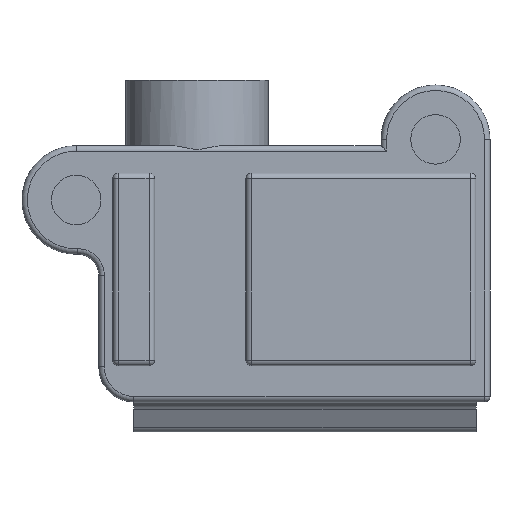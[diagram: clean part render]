
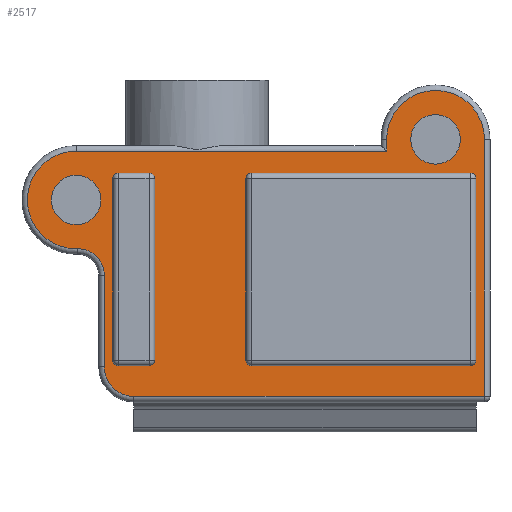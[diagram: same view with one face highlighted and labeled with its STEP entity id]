
A CAD part, front view. The second image highlights one B-rep face of the part: STEP entity #2517.
In plain terms, the highlighted planar face has unit normal (0, -1, 0).
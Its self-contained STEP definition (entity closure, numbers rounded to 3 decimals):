
#237=DIRECTION('',(-1.,0.,0.));
#238=VECTOR('',#237,11.28);
#239=CARTESIAN_POINT('',(6.89,-2.6,-2.575));
#240=LINE('',#239,#238);
#483=CARTESIAN_POINT('',(1.98,-2.6,-3.575));
#484=DIRECTION('',(0.,1.,0.));
#485=DIRECTION('',(-1.,0.,0.));
#486=AXIS2_PLACEMENT_3D('',#483,#484,#485);
#515=CARTESIAN_POINT('',(1.98,-2.6,-10.175));
#516=DIRECTION('',(0.,1.,0.));
#517=DIRECTION('',(0.,0.,-1.));
#518=AXIS2_PLACEMENT_3D('',#515,#516,#517);
#583=CARTESIAN_POINT('',(9.94,-2.6,-10.175));
#584=DIRECTION('',(0.,1.,0.));
#585=DIRECTION('',(1.,0.,0.));
#586=AXIS2_PLACEMENT_3D('',#583,#584,#585);
#634=CARTESIAN_POINT('',(9.94,-2.6,-3.575));
#635=DIRECTION('',(0.,1.,0.));
#636=DIRECTION('',(0.,0.,1.));
#637=AXIS2_PLACEMENT_3D('',#634,#635,#636);
#651=CARTESIAN_POINT('',(-4.39,-2.6,-4.35));
#652=DIRECTION('',(0.,-1.,0.));
#653=DIRECTION('',(0.,0.,1.));
#654=AXIS2_PLACEMENT_3D('',#651,#652,#653);
#656=CARTESIAN_POINT('',(-4.39,-2.6,-4.35));
#657=DIRECTION('',(0.,-1.,0.));
#658=DIRECTION('',(0.,0.,-1.));
#659=AXIS2_PLACEMENT_3D('',#656,#657,#658);
#661=CARTESIAN_POINT('',(8.67,-2.6,-2.15));
#662=DIRECTION('',(0.,-1.,0.));
#663=DIRECTION('',(0.,0.,1.));
#664=AXIS2_PLACEMENT_3D('',#661,#662,#663);
#666=CARTESIAN_POINT('',(8.67,-2.6,-2.15));
#667=DIRECTION('',(0.,-1.,0.));
#668=DIRECTION('',(0.,0.,-1.));
#669=AXIS2_PLACEMENT_3D('',#666,#667,#668);
#671=DIRECTION('',(0.,0.,1.));
#672=VECTOR('',#671,6.6);
#673=CARTESIAN_POINT('',(1.78,-2.6,-10.175));
#674=LINE('',#673,#672);
#675=DIRECTION('',(-1.,0.,0.));
#676=VECTOR('',#675,7.96);
#677=CARTESIAN_POINT('',(9.94,-2.6,-10.375));
#678=LINE('',#677,#676);
#679=DIRECTION('',(0.,0.,1.));
#680=VECTOR('',#679,6.6);
#681=CARTESIAN_POINT('',(10.14,-2.6,-10.175));
#682=LINE('',#681,#680);
#683=DIRECTION('',(-1.,0.,0.));
#684=VECTOR('',#683,7.96);
#685=CARTESIAN_POINT('',(9.94,-2.6,-3.375));
#686=LINE('',#685,#684);
#687=DIRECTION('',(-1.,0.,0.));
#688=VECTOR('',#687,1.12);
#689=CARTESIAN_POINT('',(-1.74,-2.6,-3.375));
#690=LINE('',#689,#688);
#691=DIRECTION('',(0.,0.,1.));
#692=VECTOR('',#691,6.6);
#693=CARTESIAN_POINT('',(-3.06,-2.6,-10.175));
#694=LINE('',#693,#692);
#695=DIRECTION('',(-1.,0.,0.));
#696=VECTOR('',#695,1.12);
#697=CARTESIAN_POINT('',(-1.74,-2.6,-10.375));
#698=LINE('',#697,#696);
#699=DIRECTION('',(0.,0.,1.));
#700=VECTOR('',#699,6.6);
#701=CARTESIAN_POINT('',(-1.54,-2.6,-10.175));
#702=LINE('',#701,#700);
#703=DIRECTION('',(0.,0.,-1.));
#704=VECTOR('',#703,0.425);
#705=CARTESIAN_POINT('',(6.89,-2.6,-2.15));
#706=LINE('',#705,#704);
#707=CARTESIAN_POINT('',(8.67,-2.6,-2.15));
#708=DIRECTION('',(0.,-1.,0.));
#709=DIRECTION('',(1.,0.,0.));
#710=AXIS2_PLACEMENT_3D('',#707,#708,#709);
#712=DIRECTION('',(0.,0.,1.));
#713=VECTOR('',#712,9.34);
#714=CARTESIAN_POINT('',(10.45,-2.6,-11.49));
#715=LINE('',#714,#713);
#716=DIRECTION('',(1.,0.,0.));
#717=VECTOR('',#716,12.75);
#718=CARTESIAN_POINT('',(-2.3,-2.6,-11.49));
#719=LINE('',#718,#717);
#720=CARTESIAN_POINT('',(-2.3,-2.6,-10.42));
#721=DIRECTION('',(0.,-1.,0.));
#722=DIRECTION('',(-1.,0.,0.));
#723=AXIS2_PLACEMENT_3D('',#720,#721,#722);
#725=DIRECTION('',(0.,0.,-1.));
#726=VECTOR('',#725,3.336);
#727=CARTESIAN_POINT('',(-3.37,-2.6,-7.084));
#728=LINE('',#727,#726);
#729=CARTESIAN_POINT('',(-4.33,-2.6,-7.084));
#730=DIRECTION('',(0.,1.,0.));
#731=DIRECTION('',(-0.022,0.,1.));
#732=AXIS2_PLACEMENT_3D('',#729,#730,#731);
#734=CARTESIAN_POINT('',(-4.39,-2.6,-4.35));
#735=DIRECTION('',(0.,-1.,0.));
#736=DIRECTION('',(0.,0.,1.));
#737=AXIS2_PLACEMENT_3D('',#734,#735,#736);
#775=CARTESIAN_POINT('',(-2.86,-2.6,-3.575));
#776=DIRECTION('',(0.,1.,0.));
#777=DIRECTION('',(-1.,0.,0.));
#778=AXIS2_PLACEMENT_3D('',#775,#776,#777);
#838=CARTESIAN_POINT('',(-2.86,-2.6,-10.175));
#839=DIRECTION('',(0.,1.,0.));
#840=DIRECTION('',(0.,0.,-1.));
#841=AXIS2_PLACEMENT_3D('',#838,#839,#840);
#873=CARTESIAN_POINT('',(-1.74,-2.6,-3.575));
#874=DIRECTION('',(0.,1.,0.));
#875=DIRECTION('',(0.,0.,1.));
#876=AXIS2_PLACEMENT_3D('',#873,#874,#875);
#890=CARTESIAN_POINT('',(-1.74,-2.6,-10.175));
#891=DIRECTION('',(0.,1.,0.));
#892=DIRECTION('',(1.,0.,0.));
#893=AXIS2_PLACEMENT_3D('',#890,#891,#892);
#1463=CARTESIAN_POINT('',(1.78,-2.6,-10.175));
#1465=VERTEX_POINT('',#1463);
#1467=CARTESIAN_POINT('',(1.98,-2.6,-10.375));
#1469=VERTEX_POINT('',#1467);
#1470=CARTESIAN_POINT('',(1.98,-2.6,-3.375));
#1472=VERTEX_POINT('',#1470);
#1474=CARTESIAN_POINT('',(1.78,-2.6,-3.575));
#1476=VERTEX_POINT('',#1474);
#1479=CARTESIAN_POINT('',(10.14,-2.6,-3.575));
#1481=VERTEX_POINT('',#1479);
#1483=CARTESIAN_POINT('',(9.94,-2.6,-3.375));
#1485=VERTEX_POINT('',#1483);
#1486=CARTESIAN_POINT('',(9.94,-2.6,-10.375));
#1488=VERTEX_POINT('',#1486);
#1490=CARTESIAN_POINT('',(10.14,-2.6,-10.175));
#1492=VERTEX_POINT('',#1490);
#1502=CARTESIAN_POINT('',(-2.86,-2.6,-3.375));
#1504=VERTEX_POINT('',#1502);
#1506=CARTESIAN_POINT('',(-3.06,-2.6,-3.575));
#1508=VERTEX_POINT('',#1506);
#1511=CARTESIAN_POINT('',(-3.06,-2.6,-10.175));
#1513=VERTEX_POINT('',#1511);
#1515=CARTESIAN_POINT('',(-2.86,-2.6,-10.375));
#1517=VERTEX_POINT('',#1515);
#1518=CARTESIAN_POINT('',(-1.74,-2.6,-10.375));
#1520=VERTEX_POINT('',#1518);
#1522=CARTESIAN_POINT('',(-1.54,-2.6,-10.175));
#1524=VERTEX_POINT('',#1522);
#1537=CARTESIAN_POINT('',(-1.54,-2.6,-3.575));
#1539=VERTEX_POINT('',#1537);
#1540=CARTESIAN_POINT('',(-1.74,-2.6,-3.375));
#1541=VERTEX_POINT('',#1540);
#1652=CARTESIAN_POINT('',(6.89,-2.6,-2.15));
#1653=CARTESIAN_POINT('',(6.89,-2.6,-2.575));
#1654=VERTEX_POINT('',#1652);
#1655=VERTEX_POINT('',#1653);
#1656=CARTESIAN_POINT('',(10.45,-2.6,-2.15));
#1657=VERTEX_POINT('',#1656);
#1660=CARTESIAN_POINT('',(10.45,-2.6,-11.49));
#1661=VERTEX_POINT('',#1660);
#1704=CARTESIAN_POINT('',(-4.39,-2.6,-2.575));
#1705=CARTESIAN_POINT('',(-4.351,-2.6,-6.125));
#1706=VERTEX_POINT('',#1704);
#1707=VERTEX_POINT('',#1705);
#1710=CARTESIAN_POINT('',(-3.37,-2.6,-7.084));
#1711=VERTEX_POINT('',#1710);
#1714=CARTESIAN_POINT('',(-3.37,-2.6,-10.42));
#1715=VERTEX_POINT('',#1714);
#1718=CARTESIAN_POINT('',(-2.3,-2.6,-11.49));
#1719=VERTEX_POINT('',#1718);
#1730=CARTESIAN_POINT('',(-4.39,-2.6,-3.45));
#1731=CARTESIAN_POINT('',(-4.39,-2.6,-5.25));
#1732=VERTEX_POINT('',#1730);
#1733=VERTEX_POINT('',#1731);
#1734=CARTESIAN_POINT('',(8.67,-2.6,-1.25));
#1735=CARTESIAN_POINT('',(8.67,-2.6,-3.05));
#1736=VERTEX_POINT('',#1734);
#1737=VERTEX_POINT('',#1735);
#2456=CARTESIAN_POINT('',(0.,-2.6,0.));
#2457=DIRECTION('',(0.,1.,0.));
#2458=DIRECTION('',(1.,0.,0.));
#2459=AXIS2_PLACEMENT_3D('',#2456,#2457,#2458);
#2460=PLANE('',#2459);
#2461=ORIENTED_EDGE('',*,*,#1885,.F.);
#2462=ORIENTED_EDGE('',*,*,#1916,.F.);
#2464=ORIENTED_EDGE('',*,*,#2463,.F.);
#2466=ORIENTED_EDGE('',*,*,#2465,.F.);
#2468=ORIENTED_EDGE('',*,*,#2467,.F.);
#2470=ORIENTED_EDGE('',*,*,#2469,.F.);
#2472=ORIENTED_EDGE('',*,*,#2471,.F.);
#2474=ORIENTED_EDGE('',*,*,#2473,.F.);
#2476=ORIENTED_EDGE('',*,*,#2475,.F.);
#2477=EDGE_LOOP('',(#2461,#2462,#2464,#2466,#2468,#2470,#2472,#2474,#2476));
#2478=FACE_OUTER_BOUND('',#2477,.F.);
#2480=ORIENTED_EDGE('',*,*,#2479,.T.);
#2482=ORIENTED_EDGE('',*,*,#2481,.T.);
#2483=EDGE_LOOP('',(#2480,#2482));
#2484=FACE_BOUND('',#2483,.F.);
#2485=ORIENTED_EDGE('',*,*,#2240,.F.);
#2486=ORIENTED_EDGE('',*,*,#2257,.F.);
#2487=ORIENTED_EDGE('',*,*,#2298,.F.);
#2488=ORIENTED_EDGE('',*,*,#2359,.F.);
#2489=ORIENTED_EDGE('',*,*,#2449,.T.);
#2490=ORIENTED_EDGE('',*,*,#2438,.F.);
#2491=ORIENTED_EDGE('',*,*,#2136,.T.);
#2492=ORIENTED_EDGE('',*,*,#2200,.F.);
#2493=EDGE_LOOP('',(#2485,#2486,#2487,#2488,#2489,#2490,#2491,#2492));
#2494=FACE_BOUND('',#2493,.F.);
#2495=ORIENTED_EDGE('',*,*,#2152,.T.);
#2497=ORIENTED_EDGE('',*,*,#2496,.F.);
#2499=ORIENTED_EDGE('',*,*,#2498,.F.);
#2501=ORIENTED_EDGE('',*,*,#2500,.F.);
#2502=ORIENTED_EDGE('',*,*,#2314,.F.);
#2504=ORIENTED_EDGE('',*,*,#2503,.F.);
#2506=ORIENTED_EDGE('',*,*,#2505,.T.);
#2508=ORIENTED_EDGE('',*,*,#2507,.F.);
#2509=EDGE_LOOP('',(#2495,#2497,#2499,#2501,#2502,#2504,#2506,#2508));
#2510=FACE_BOUND('',#2509,.F.);
#2512=ORIENTED_EDGE('',*,*,#2511,.T.);
#2514=ORIENTED_EDGE('',*,*,#2513,.T.);
#2515=EDGE_LOOP('',(#2512,#2514));
#2516=FACE_BOUND('',#2515,.F.);
#487=CIRCLE('',#486,0.2);
#519=CIRCLE('',#518,0.2);
#587=CIRCLE('',#586,0.2);
#638=CIRCLE('',#637,0.2);
#655=CIRCLE('',#654,0.9);
#660=CIRCLE('',#659,0.9);
#665=CIRCLE('',#664,0.9);
#670=CIRCLE('',#669,0.9);
#711=CIRCLE('',#710,1.78);
#724=CIRCLE('',#723,1.07);
#733=CIRCLE('',#732,0.96);
#738=CIRCLE('',#737,1.775);
#779=CIRCLE('',#778,0.2);
#842=CIRCLE('',#841,0.2);
#877=CIRCLE('',#876,0.2);
#894=CIRCLE('',#893,0.2);
#1885=EDGE_CURVE('',#1655,#1706,#240,.T.);
#1916=EDGE_CURVE('',#1654,#1655,#706,.T.);
#2136=EDGE_CURVE('',#1485,#1472,#686,.T.);
#2152=EDGE_CURVE('',#1541,#1504,#690,.T.);
#2200=EDGE_CURVE('',#1476,#1472,#487,.T.);
#2240=EDGE_CURVE('',#1465,#1476,#674,.T.);
#2257=EDGE_CURVE('',#1469,#1465,#519,.T.);
#2298=EDGE_CURVE('',#1488,#1469,#678,.T.);
#2314=EDGE_CURVE('',#1520,#1517,#698,.T.);
#2359=EDGE_CURVE('',#1492,#1488,#587,.T.);
#2438=EDGE_CURVE('',#1485,#1481,#638,.T.);
#2449=EDGE_CURVE('',#1492,#1481,#682,.T.);
#2463=EDGE_CURVE('',#1657,#1654,#711,.T.);
#2465=EDGE_CURVE('',#1661,#1657,#715,.T.);
#2467=EDGE_CURVE('',#1719,#1661,#719,.T.);
#2469=EDGE_CURVE('',#1715,#1719,#724,.T.);
#2471=EDGE_CURVE('',#1711,#1715,#728,.T.);
#2473=EDGE_CURVE('',#1707,#1711,#733,.T.);
#2475=EDGE_CURVE('',#1706,#1707,#738,.T.);
#2479=EDGE_CURVE('',#1736,#1737,#665,.T.);
#2481=EDGE_CURVE('',#1737,#1736,#670,.T.);
#2496=EDGE_CURVE('',#1508,#1504,#779,.T.);
#2498=EDGE_CURVE('',#1513,#1508,#694,.T.);
#2500=EDGE_CURVE('',#1517,#1513,#842,.T.);
#2503=EDGE_CURVE('',#1524,#1520,#894,.T.);
#2505=EDGE_CURVE('',#1524,#1539,#702,.T.);
#2507=EDGE_CURVE('',#1541,#1539,#877,.T.);
#2511=EDGE_CURVE('',#1732,#1733,#655,.T.);
#2513=EDGE_CURVE('',#1733,#1732,#660,.T.);
#2517=ADVANCED_FACE('',(#2478,#2484,#2494,#2510,#2516),#2460,.F.);
